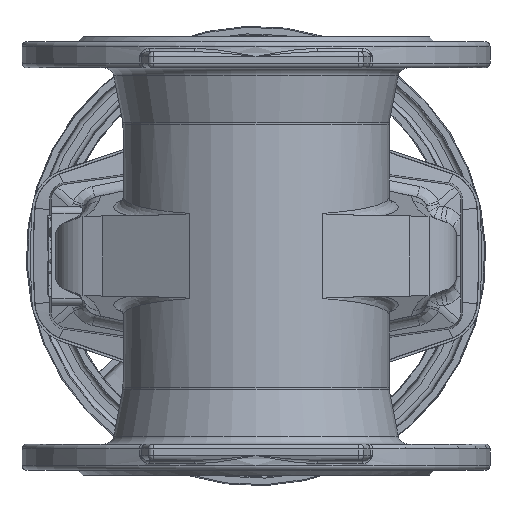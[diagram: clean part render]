
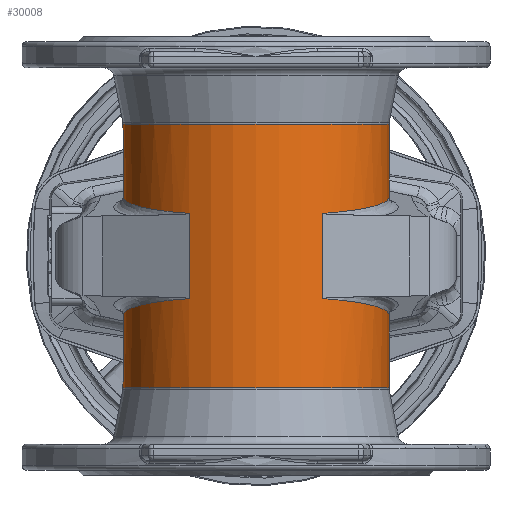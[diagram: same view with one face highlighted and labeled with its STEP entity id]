
A CAD part, front view. The second image highlights one B-rep face of the part: STEP entity #30008.
In plain terms, the highlighted cylindrical face has radius 81 mm (diameter 162 mm), a full revolution.
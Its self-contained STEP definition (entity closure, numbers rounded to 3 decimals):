
#351 = AXIS2_PLACEMENT_3D ( 'NONE', #15181, #15253, #15251 ) ;
#1738 = VERTEX_POINT ( 'NONE', #14094 ) ;
#2878 =( BOUNDED_CURVE ( )  B_SPLINE_CURVE ( 3, ( #15116, #15118, #15128, #15130 ),
 .UNSPECIFIED., .F., .F. ) 
 B_SPLINE_CURVE_WITH_KNOTS ( ( 4, 4 ),
 ( 0.125, 2.743 ),
 .UNSPECIFIED. ) 
 CURVE ( )  GEOMETRIC_REPRESENTATION_ITEM ( )  RATIONAL_B_SPLINE_CURVE ( ( 1., 0.506, 0.506, 1. ) ) 
 REPRESENTATION_ITEM ( '' )  );
#3173 = FACE_OUTER_BOUND ( 'NONE', #5387, .T. ) ;
#3176 = FACE_OUTER_BOUND ( 'NONE', #5372, .T. ) ;
#3198 = FACE_BOUND ( 'NONE', #5376, .T. ) ;
#3207 = CYLINDRICAL_SURFACE ( 'NONE', #351, 81. ) ;
#5372 = EDGE_LOOP ( 'NONE', ( #20270 ) ) ;
#5376 = EDGE_LOOP ( 'NONE', ( #20276, #20271, #20272, #20273, #20268, #20269 ) ) ;
#5387 = EDGE_LOOP ( 'NONE', ( #20265 ) ) ;
#6707 = CARTESIAN_POINT ( 'NONE',  ( -40.5, -70.148, -25.974 ) ) ;
#6712 = CARTESIAN_POINT ( 'NONE',  ( -40.5, -70.148, 25.974 ) ) ;
#6728 = CARTESIAN_POINT ( 'NONE',  ( 40.5, -70.148, -25.974 ) ) ;
#6740 = CARTESIAN_POINT ( 'NONE',  ( 0., 81., 49.557 ) ) ;
#6762 = CARTESIAN_POINT ( 'NONE',  ( 40.5, -70.148, 25.974 ) ) ;
#6833 = CARTESIAN_POINT ( 'NONE',  ( 0., 81., -49.557 ) ) ;
#11998 = EDGE_CURVE ( 'NONE', #1738, #1738, #24244, .T. ) ;
#12052 = EDGE_CURVE ( 'NONE', #34712, #34684, #32370, .T. ) ;
#12059 = EDGE_CURVE ( 'NONE', #34811, #34700, #32428, .T. ) ;
#12072 = EDGE_CURVE ( 'NONE', #34712, #34734, #32407, .T. ) ;
#12163 = EDGE_CURVE ( 'NONE', #34684, #34679, #24424, .T. ) ;
#12166 = EDGE_CURVE ( 'NONE', #24692, #24692, #24430, .T. ) ;
#12178 = EDGE_CURVE ( 'NONE', #34811, #34679, #2878, .T. ) ;
#12185 = EDGE_CURVE ( 'NONE', #34734, #34700, #24446, .T. ) ;
#14094 = CARTESIAN_POINT ( 'NONE',  ( 81., 0., 80.205 ) ) ;
#14108 = CARTESIAN_POINT ( 'NONE',  ( 81., 0., -80.205 ) ) ;
#14326 = CARTESIAN_POINT ( 'NONE',  ( -103.108, 81., 47.605 ) ) ;
#14331 = CARTESIAN_POINT ( 'NONE',  ( -129.794, -18.594, 32.066 ) ) ;
#14334 = CARTESIAN_POINT ( 'NONE',  ( 0., 81., 49.557 ) ) ;
#14335 = CARTESIAN_POINT ( 'NONE',  ( -40.5, -70.148, 25.974 ) ) ;
#14362 = CARTESIAN_POINT ( 'NONE',  ( 103.108, 81., -47.605 ) ) ;
#14374 = CARTESIAN_POINT ( 'NONE',  ( 0., 81., -49.557 ) ) ;
#14375 = CARTESIAN_POINT ( 'NONE',  ( 129.794, -18.594, -32.066 ) ) ;
#14376 = CARTESIAN_POINT ( 'NONE',  ( 40.5, -70.148, -25.974 ) ) ;
#14386 = CARTESIAN_POINT ( 'NONE',  ( 0., 81., 49.557 ) ) ;
#14421 = CARTESIAN_POINT ( 'NONE',  ( 103.108, 81., 47.605 ) ) ;
#14426 = CARTESIAN_POINT ( 'NONE',  ( 129.794, -18.594, 32.066 ) ) ;
#14427 = CARTESIAN_POINT ( 'NONE',  ( 40.5, -70.148, 25.974 ) ) ;
#14989 = CARTESIAN_POINT ( 'NONE',  ( -40.5, -70.148, 133.5 ) ) ;
#15010 = DIRECTION ( 'NONE',  ( 0., 0., -1. ) ) ;
#15030 = CARTESIAN_POINT ( 'NONE',  ( 0., 0., -80.205 ) ) ;
#15031 = DIRECTION ( 'NONE',  ( 0., 0., -1. ) ) ;
#15033 = DIRECTION ( 'NONE',  ( 1., 0., 0. ) ) ;
#15116 = CARTESIAN_POINT ( 'NONE',  ( 0., 81., -49.557 ) ) ;
#15118 = CARTESIAN_POINT ( 'NONE',  ( -103.108, 81., -47.605 ) ) ;
#15128 = CARTESIAN_POINT ( 'NONE',  ( -129.794, -18.594, -32.066 ) ) ;
#15130 = CARTESIAN_POINT ( 'NONE',  ( -40.5, -70.148, -25.974 ) ) ;
#15181 = CARTESIAN_POINT ( 'NONE',  ( 0., 0., 0. ) ) ;
#15195 = CARTESIAN_POINT ( 'NONE',  ( 40.5, -70.148, 133.5 ) ) ;
#15205 = DIRECTION ( 'NONE',  ( 0., 0., -1. ) ) ;
#15251 = DIRECTION ( 'NONE',  ( 1., 0., 0. ) ) ;
#15253 = DIRECTION ( 'NONE',  ( 0., 0., 1. ) ) ;
#19111 = AXIS2_PLACEMENT_3D ( 'NONE', #28478, #28479, #28480 ) ;
#19164 = AXIS2_PLACEMENT_3D ( 'NONE', #15030, #15031, #15033 ) ;
#20265 = ORIENTED_EDGE ( 'NONE', *, *, #12166, .F. ) ;
#20268 = ORIENTED_EDGE ( 'NONE', *, *, #12072, .F. ) ;
#20269 = ORIENTED_EDGE ( 'NONE', *, *, #12052, .T. ) ;
#20270 = ORIENTED_EDGE ( 'NONE', *, *, #11998, .T. ) ;
#20271 = ORIENTED_EDGE ( 'NONE', *, *, #12178, .F. ) ;
#20272 = ORIENTED_EDGE ( 'NONE', *, *, #12059, .T. ) ;
#20273 = ORIENTED_EDGE ( 'NONE', *, *, #12185, .F. ) ;
#20276 = ORIENTED_EDGE ( 'NONE', *, *, #12163, .T. ) ;
#24244 = CIRCLE ( 'NONE', #19111, 81. ) ;
#24424 = LINE ( 'NONE', #14989, #24427 ) ;
#24427 = VECTOR ( 'NONE', #15010, 1000. ) ;
#24430 = CIRCLE ( 'NONE', #19164, 81. ) ;
#24446 = LINE ( 'NONE', #15195, #24449 ) ;
#24449 = VECTOR ( 'NONE', #15205, 1000. ) ;
#24692 = VERTEX_POINT ( 'NONE', #14108 ) ;
#28478 = CARTESIAN_POINT ( 'NONE',  ( 0., 0., 80.205 ) ) ;
#28479 = DIRECTION ( 'NONE',  ( 0., 0., -1. ) ) ;
#28480 = DIRECTION ( 'NONE',  ( 1., 0., 0. ) ) ;
#30008 = ADVANCED_FACE ( 'NONE', ( #3198, #3176, #3173 ), #3207, .T. ) ;
#32370 =( BOUNDED_CURVE ( )  B_SPLINE_CURVE ( 3, ( #14334, #14326, #14331, #14335 ),
 .UNSPECIFIED., .F., .T. ) 
 B_SPLINE_CURVE_WITH_KNOTS ( ( 4, 4 ),
 ( 0.125, 2.743 ),
 .UNSPECIFIED. ) 
 CURVE ( )  GEOMETRIC_REPRESENTATION_ITEM ( )  RATIONAL_B_SPLINE_CURVE ( ( 1., 0.506, 0.506, 1. ) ) 
 REPRESENTATION_ITEM ( '' )  );
#32407 =( BOUNDED_CURVE ( )  B_SPLINE_CURVE ( 3, ( #14386, #14421, #14426, #14427 ),
 .UNSPECIFIED., .F., .F. ) 
 B_SPLINE_CURVE_WITH_KNOTS ( ( 4, 4 ),
 ( 0.125, 2.743 ),
 .UNSPECIFIED. ) 
 CURVE ( )  GEOMETRIC_REPRESENTATION_ITEM ( )  RATIONAL_B_SPLINE_CURVE ( ( 1., 0.506, 0.506, 1. ) ) 
 REPRESENTATION_ITEM ( '' )  );
#32428 =( BOUNDED_CURVE ( )  B_SPLINE_CURVE ( 3, ( #14374, #14362, #14375, #14376 ),
 .UNSPECIFIED., .F., .T. ) 
 B_SPLINE_CURVE_WITH_KNOTS ( ( 4, 4 ),
 ( 0.125, 2.743 ),
 .UNSPECIFIED. ) 
 CURVE ( )  GEOMETRIC_REPRESENTATION_ITEM ( )  RATIONAL_B_SPLINE_CURVE ( ( 1., 0.506, 0.506, 1. ) ) 
 REPRESENTATION_ITEM ( '' )  );
#34679 = VERTEX_POINT ( 'NONE', #6707 ) ;
#34684 = VERTEX_POINT ( 'NONE', #6712 ) ;
#34700 = VERTEX_POINT ( 'NONE', #6728 ) ;
#34712 = VERTEX_POINT ( 'NONE', #6740 ) ;
#34734 = VERTEX_POINT ( 'NONE', #6762 ) ;
#34811 = VERTEX_POINT ( 'NONE', #6833 ) ;
